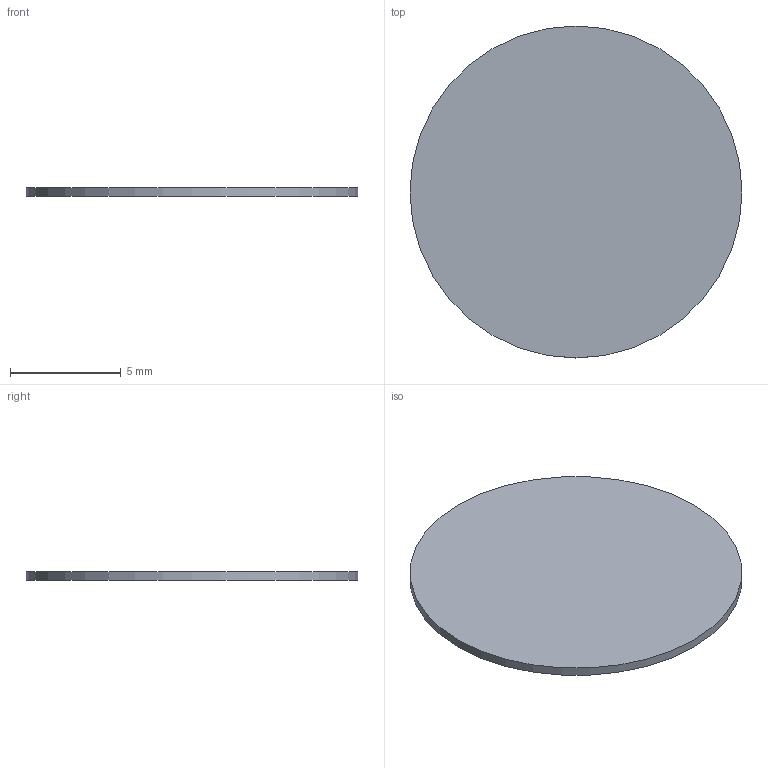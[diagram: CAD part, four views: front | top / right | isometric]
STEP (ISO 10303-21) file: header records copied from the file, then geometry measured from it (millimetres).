
FILE_DESCRIPTION(('Open CASCADE Model'),'2;1');
FILE_NAME('Open CASCADE Shape Model','2026-09-09T12:58:10',('Author'),( 'Open CASCADE'),'Open CASCADE STEP processor 7.9','Open CASCADE 7.9' ,'Unknown');
FILE_SCHEMA(('AUTOMOTIVE_DESIGN { 1 0 10303 214 1 1 1 1 }'));
Length unit declared in the file: millimetre
Products named in the file (1): Open CASCADE STEP translator 7.9 32
Bounding box: 15 x 15 x 0.4 mm (x, y, z)
Volume: 70.7 mm3; surface area: 372.3 mm2
Topology: 1 solids, 1 shells, 3 faces, 3 edges, 2 vertices
Faces by surface type: plane 2, cylinder 1
Full cylindrical faces by diameter (mm): 15 x1
Entity records: 108 total; most frequent: DIRECTION 19, CARTESIAN_POINT 15, AXIS2_PLACEMENT_3D 6, ORIENTED_EDGE 6, PCURVE 6, DEFINITIONAL_REPRESENTATION 6, LINE 5, VECTOR 5
